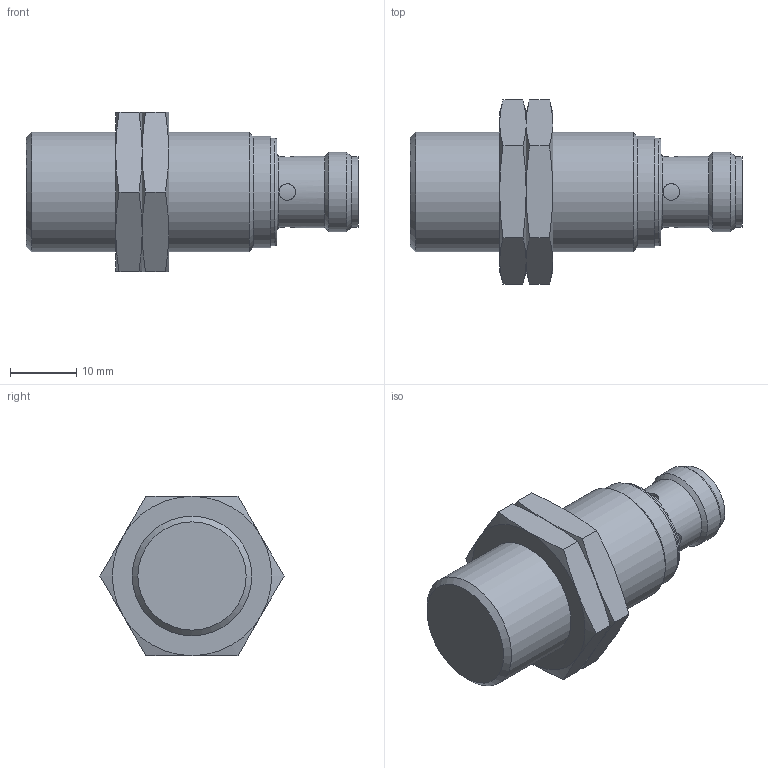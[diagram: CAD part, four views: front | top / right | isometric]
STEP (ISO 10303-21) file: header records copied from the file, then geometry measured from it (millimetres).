
FILE_DESCRIPTION( ( 'STEP AP203' ), '1' );
FILE_NAME( 'p:/temp/worker_22/temp/exporttempdir_4488_812_TKjis/format_1/IG5495.stp', '2022-02-08T10:01:03', ( 'License CC BY-ND 4.0' ), ( 'CADENAS' ), ' ', 'PARTsolutions', ' ' );
FILE_SCHEMA( ( 'CONFIG_CONTROL_DESIGN' ) );
Length unit declared in the file: millimetre
Products named in the file (3): IG5495; _IG5495_P1; _IG5495_P2
Assembly tree (3 placements, depth 2):
  IG5495
    _IG5495_P1
    _IG5495_P2  x2
Bounding box: 50 x 27.71 x 24 mm (x, y, z)
Volume: 12288.1 mm3; surface area: 5337.6 mm2
Topology: 3 solids, 3 shells, 78 faces, 163 edges, 94 vertices
Faces by surface type: cone 33, plane 24, cylinder 18, torus 3
Full cylindrical faces by diameter (mm): 2.5 x4, 8.35 x1, 10.6 x1, 10.8 x1, 12 x1, 16.2 x1, 16.8 x1, 16.917 x2, 18 x1
Entity records: 1774 total; most frequent: CARTESIAN_POINT 644, DIRECTION 214, ORIENTED_EDGE 178, AXIS2_PLACEMENT_3D 100, EDGE_CURVE 89, EDGE_LOOP 81, FACE_OUTER_BOUND 69, VERTEX_POINT 62
